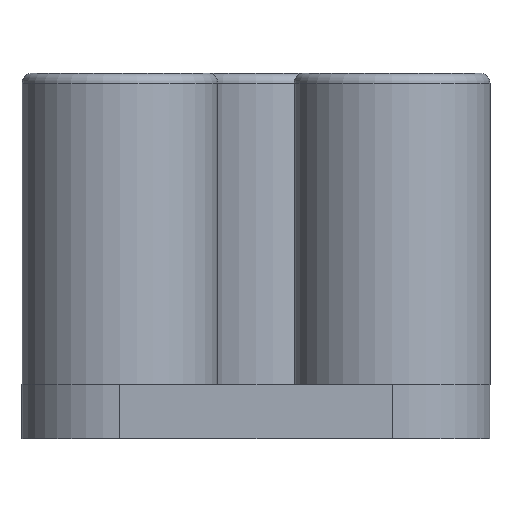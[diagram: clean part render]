
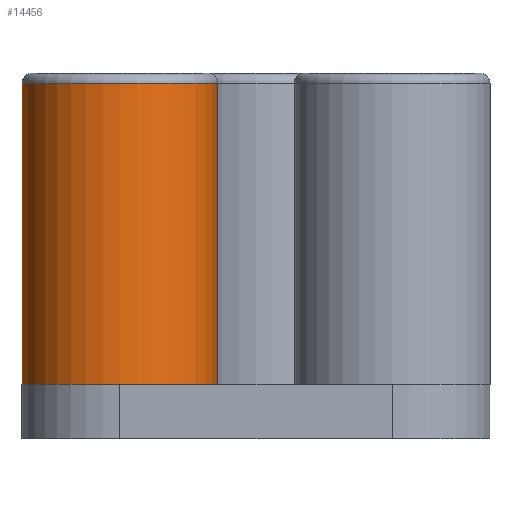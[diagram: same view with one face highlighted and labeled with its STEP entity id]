
A CAD part, front view. The second image highlights one B-rep face of the part: STEP entity #14456.
In plain terms, the highlighted cylindrical face has radius 5.04 mm (diameter 10.08 mm), a full revolution.
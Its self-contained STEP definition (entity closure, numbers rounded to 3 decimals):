
#1601=FACE_OUTER_BOUND('',#2512,.T.);
#2512=EDGE_LOOP('',(#13756,#13757,#13758,#13759));
#2541=CIRCLE('',#15196,5.04);
#2542=CIRCLE('',#15198,5.04);
#4511=LINE('',#22556,#6474);
#6474=VECTOR('',#18549,5.04);
#7796=VERTEX_POINT('',#22550);
#7797=VERTEX_POINT('',#22554);
#9785=EDGE_CURVE('',#7796,#7796,#2541,.T.);
#9786=EDGE_CURVE('',#7797,#7797,#2542,.T.);
#9787=EDGE_CURVE('',#7797,#7796,#4511,.T.);
#13756=ORIENTED_EDGE('',*,*,#9786,.F.);
#13757=ORIENTED_EDGE('',*,*,#9787,.T.);
#13758=ORIENTED_EDGE('',*,*,#9785,.F.);
#13759=ORIENTED_EDGE('',*,*,#9787,.F.);
#13792=CYLINDRICAL_SURFACE('',#15197,5.04);
#14456=ADVANCED_FACE('',(#1601),#13792,.T.);
#15196=AXIS2_PLACEMENT_3D('',#22552,#18543,#18544);
#15197=AXIS2_PLACEMENT_3D('',#22553,#18545,#18546);
#15198=AXIS2_PLACEMENT_3D('',#22555,#18547,#18548);
#18543=DIRECTION('center_axis',(0.,0.,-1.));
#18544=DIRECTION('ref_axis',(-1.,0.,0.));
#18545=DIRECTION('center_axis',(0.,0.,1.));
#18546=DIRECTION('ref_axis',(-1.,0.,0.));
#18547=DIRECTION('center_axis',(0.,0.,1.));
#18548=DIRECTION('ref_axis',(-1.,0.,0.));
#18549=DIRECTION('',(0.,0.,-1.));
#22550=CARTESIAN_POINT('',(5.04,0.,0.5));
#22552=CARTESIAN_POINT('Origin',(0.,0.,0.5));
#22553=CARTESIAN_POINT('Origin',(0.,0.,0.));
#22554=CARTESIAN_POINT('',(5.04,0.,16.));
#22555=CARTESIAN_POINT('Origin',(0.,0.,16.));
#22556=CARTESIAN_POINT('',(5.04,0.,0.));
